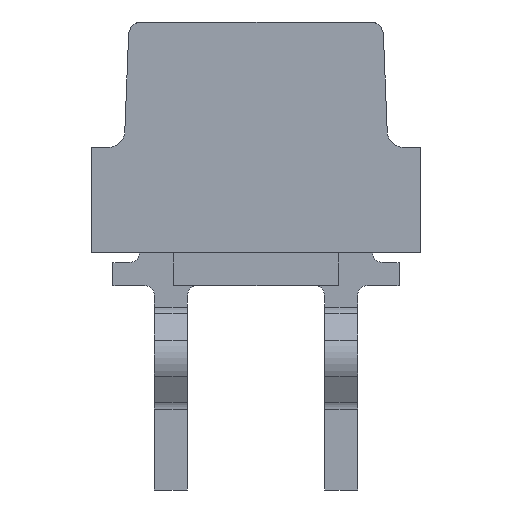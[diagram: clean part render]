
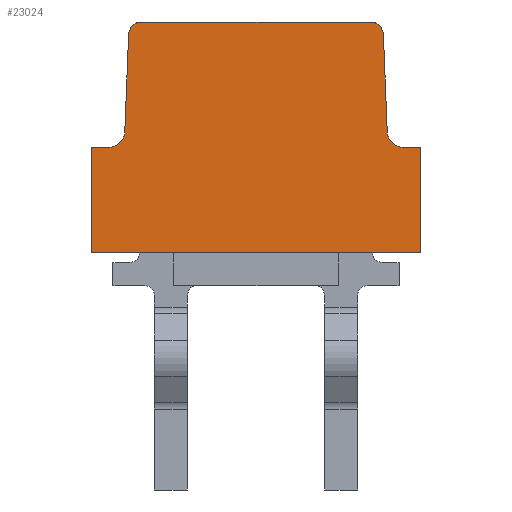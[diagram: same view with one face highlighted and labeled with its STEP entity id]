
A CAD part, left-side view. The second image highlights one B-rep face of the part: STEP entity #23024.
In plain terms, the highlighted planar face has unit normal (-1, 0, 0).
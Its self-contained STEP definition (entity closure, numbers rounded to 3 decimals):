
#134=CARTESIAN_POINT('',(-14.935,-1.733,-0.2));
#135=DIRECTION('',(-1.,0.,0.));
#136=DIRECTION('',(0.,-0.999,0.039));
#137=AXIS2_PLACEMENT_3D('',#134,#135,#136);
#139=DIRECTION('',(0.,-0.039,-0.999));
#140=VECTOR('',#139,1.469);
#141=CARTESIAN_POINT('',(-14.935,-1.933,-0.192));
#142=LINE('',#141,#140);
#143=CARTESIAN_POINT('',(-14.935,-2.24,-1.65));
#144=DIRECTION('',(-1.,0.,0.));
#145=DIRECTION('',(0.,0.999,-0.039));
#146=AXIS2_PLACEMENT_3D('',#143,#144,#145);
#148=DIRECTION('',(0.,-1.,0.));
#149=VECTOR('',#148,0.26);
#150=CARTESIAN_POINT('',(-14.935,-2.24,-1.9));
#151=LINE('',#150,#149);
#152=DIRECTION('',(0.,0.,-1.));
#153=VECTOR('',#152,1.6);
#154=CARTESIAN_POINT('',(-14.935,-2.5,-1.9));
#155=LINE('',#154,#153);
#156=DIRECTION('',(0.,1.,0.));
#157=VECTOR('',#156,5.);
#158=CARTESIAN_POINT('',(-14.935,-2.5,-3.5));
#159=LINE('',#158,#157);
#160=DIRECTION('',(0.,0.,1.));
#161=VECTOR('',#160,1.6);
#162=CARTESIAN_POINT('',(-14.935,2.5,-3.5));
#163=LINE('',#162,#161);
#164=DIRECTION('',(0.,-1.,0.));
#165=VECTOR('',#164,0.26);
#166=CARTESIAN_POINT('',(-14.935,2.5,-1.9));
#167=LINE('',#166,#165);
#168=CARTESIAN_POINT('',(-14.935,2.24,-1.65));
#169=DIRECTION('',(-1.,0.,0.));
#170=DIRECTION('',(0.,0.,-1.));
#171=AXIS2_PLACEMENT_3D('',#168,#169,#170);
#173=DIRECTION('',(0.,-0.039,0.999));
#174=VECTOR('',#173,1.469);
#175=CARTESIAN_POINT('',(-14.935,1.991,-1.66));
#176=LINE('',#175,#174);
#177=CARTESIAN_POINT('',(-14.935,1.733,-0.2));
#178=DIRECTION('',(-1.,0.,0.));
#179=DIRECTION('',(0.,0.,1.));
#180=AXIS2_PLACEMENT_3D('',#177,#178,#179);
#182=DIRECTION('',(0.,-1.,0.));
#183=VECTOR('',#182,3.465);
#184=CARTESIAN_POINT('',(-14.935,1.733,0.));
#185=LINE('',#184,#183);
#17470=CARTESIAN_POINT('',(-14.935,-2.5,-1.9));
#17471=CARTESIAN_POINT('',(-14.935,-2.5,-3.5));
#17472=VERTEX_POINT('',#17470);
#17473=VERTEX_POINT('',#17471);
#17474=CARTESIAN_POINT('',(-14.935,2.5,-3.5));
#17475=VERTEX_POINT('',#17474);
#17476=CARTESIAN_POINT('',(-14.935,2.5,-1.9));
#17477=VERTEX_POINT('',#17476);
#17810=CARTESIAN_POINT('',(-14.935,-1.991,-1.66));
#17811=CARTESIAN_POINT('',(-14.935,-2.24,-1.9));
#17812=VERTEX_POINT('',#17810);
#17813=VERTEX_POINT('',#17811);
#17814=CARTESIAN_POINT('',(-14.935,2.24,-1.9));
#17815=VERTEX_POINT('',#17814);
#17816=CARTESIAN_POINT('',(-14.935,1.991,-1.66));
#17817=VERTEX_POINT('',#17816);
#22958=CARTESIAN_POINT('',(-14.935,-1.933,-0.192));
#22959=CARTESIAN_POINT('',(-14.935,-1.733,0.));
#22960=VERTEX_POINT('',#22958);
#22961=VERTEX_POINT('',#22959);
#22967=CARTESIAN_POINT('',(-14.935,1.733,0.));
#22968=CARTESIAN_POINT('',(-14.935,1.933,-0.192));
#22969=VERTEX_POINT('',#22967);
#22970=VERTEX_POINT('',#22968);
#22993=CARTESIAN_POINT('',(-14.935,0.,0.));
#22994=DIRECTION('',(1.,0.,0.));
#22995=DIRECTION('',(0.,1.,0.));
#22996=AXIS2_PLACEMENT_3D('',#22993,#22994,#22995);
#22997=PLANE('',#22996);
#22999=ORIENTED_EDGE('',*,*,#22998,.F.);
#23001=ORIENTED_EDGE('',*,*,#23000,.T.);
#23003=ORIENTED_EDGE('',*,*,#23002,.T.);
#23005=ORIENTED_EDGE('',*,*,#23004,.T.);
#23007=ORIENTED_EDGE('',*,*,#23006,.T.);
#23009=ORIENTED_EDGE('',*,*,#23008,.T.);
#23011=ORIENTED_EDGE('',*,*,#23010,.T.);
#23013=ORIENTED_EDGE('',*,*,#23012,.T.);
#23015=ORIENTED_EDGE('',*,*,#23014,.T.);
#23017=ORIENTED_EDGE('',*,*,#23016,.T.);
#23019=ORIENTED_EDGE('',*,*,#23018,.F.);
#23021=ORIENTED_EDGE('',*,*,#23020,.T.);
#23022=EDGE_LOOP('',(#22999,#23001,#23003,#23005,#23007,#23009,#23011,#23013,
#23015,#23017,#23019,#23021));
#23023=FACE_OUTER_BOUND('',#23022,.F.);
#138=CIRCLE('',#137,0.2);
#147=CIRCLE('',#146,0.25);
#172=CIRCLE('',#171,0.25);
#181=CIRCLE('',#180,0.2);
#22998=EDGE_CURVE('',#22960,#22961,#138,.T.);
#23000=EDGE_CURVE('',#22960,#17812,#142,.T.);
#23002=EDGE_CURVE('',#17812,#17813,#147,.T.);
#23004=EDGE_CURVE('',#17813,#17472,#151,.T.);
#23006=EDGE_CURVE('',#17472,#17473,#155,.T.);
#23008=EDGE_CURVE('',#17473,#17475,#159,.T.);
#23010=EDGE_CURVE('',#17475,#17477,#163,.T.);
#23012=EDGE_CURVE('',#17477,#17815,#167,.T.);
#23014=EDGE_CURVE('',#17815,#17817,#172,.T.);
#23016=EDGE_CURVE('',#17817,#22970,#176,.T.);
#23018=EDGE_CURVE('',#22969,#22970,#181,.T.);
#23020=EDGE_CURVE('',#22969,#22961,#185,.T.);
#23024=ADVANCED_FACE('',(#23023),#22997,.F.);
